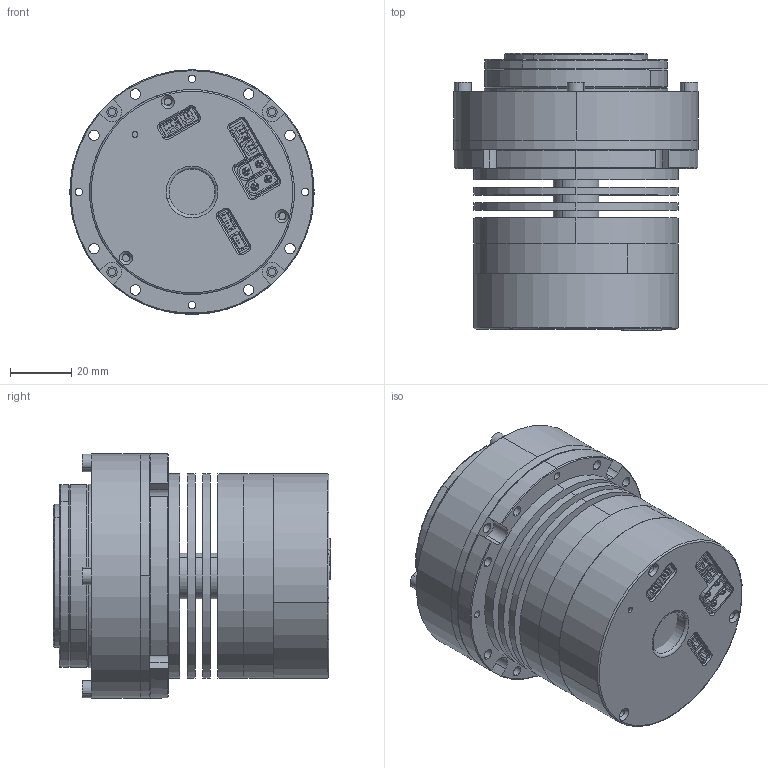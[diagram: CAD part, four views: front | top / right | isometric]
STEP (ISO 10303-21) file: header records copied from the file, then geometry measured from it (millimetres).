
FILE_DESCRIPTION (( 'STEP AP203' ), '1' );
FILE_NAME ('1MT.055.020（RH-17-100-E-N 一体化谐波减速模组-双编+ECAT）.STEP', '2024-10-30T03:46:32', ( '' ), ( '' ), 'SwSTEP 2.0', 'SolidWorks 2020', '' );
FILE_SCHEMA (( 'CONFIG_CONTROL_DESIGN' ));
Length unit declared in the file: millimetre
Products named in the file (1): 1MT.055.020（RH-17-100-E-N 一体化谐波减速模组-双编+ECAT）
Bounding box: 80 x 90.81 x 80 mm (x, y, z)
Surface area: 58568.5 mm2 (no closed solid volume)
Topology: 0 solids, 64 shells, 634 faces, 2953 edges, 2360 vertices
Faces by surface type: plane 370, cylinder 197, cone 43, bspline 16, torus 8
Entity records: 30642 total; most frequent: CARTESIAN_POINT 6794, DIRECTION 4999, ORIENTED_EDGE 4085, EDGE_CURVE 2953, VERTEX_POINT 2360, VECTOR 1873, LINE 1873, AXIS2_PLACEMENT_3D 1563
